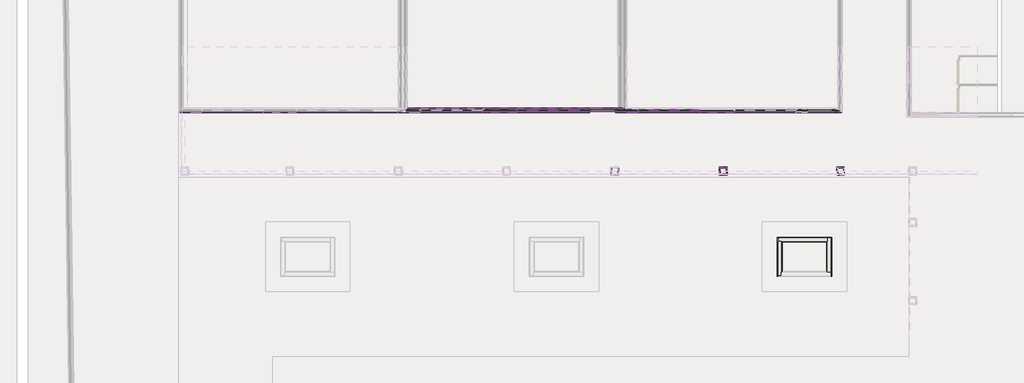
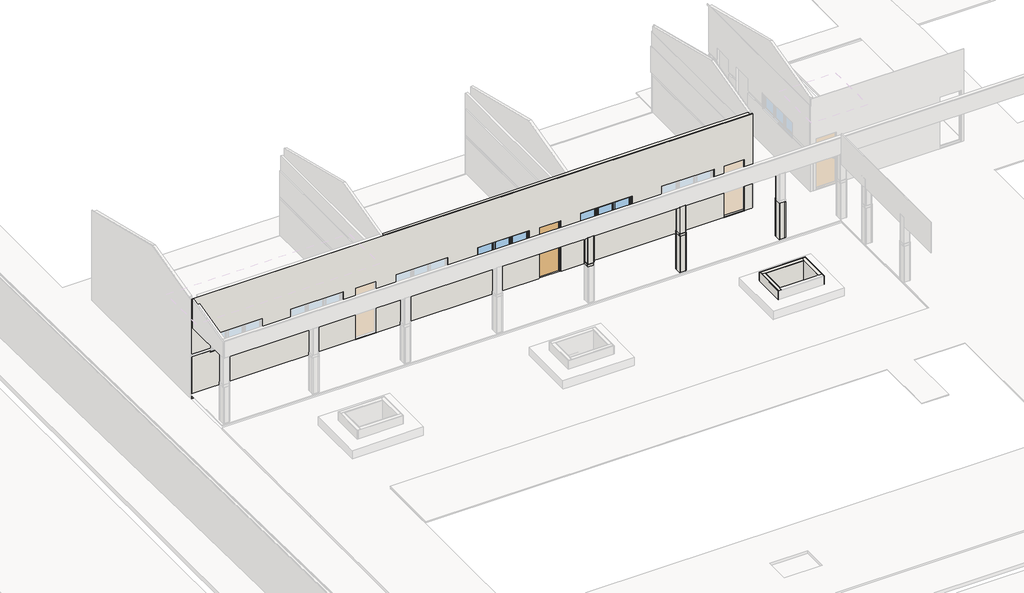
# One storey, part 8 of 28: 42 walls, 2 doors, 2 windows.
"""IFC4 building model written with IfcOpenShell, lengths in millimetres."""

from ifc_helpers import new_model, si_unit, frame, origin, place, context, project, spatial, polyline, outline, extrude, faceted_brep, transform, mapped, element, save
from components import door_29174598, pf15_l82cm_5bfc7586, window_2x60x220_bcaba8dd

model = new_model("IFC4")

# Units and contexts
model_context = context("Model", 3, world=origin())
ifc_project = project(units=[si_unit("LENGTHUNIT", "METRE", prefix="MILLI")], contexts=[model_context])

# Site, building, storey
site = spatial("IfcSite", under=ifc_project)
building = spatial("IfcBuilding", under=site)
storey = spatial("IfcBuildingStorey", under=building, Name="Térreo", Elevation=0.0)

# Doors
placement = place(None, origin())
door_shape = door_29174598(model_context)
element("IfcDoor", 1, ObjectType="FDE_SO_Soleiras1 : SO14_SoleiraRampadaDesnívelAté2cm_L=14cm_Cimentado 2", at=placement, inside=storey, context=model_context, shape_type="MappedRepresentation", body=[
    mapped(door_shape, transform((-44163.0, 21250.0, 190.0), x_axis=(1.0, 0.0, 0.0), y_axis=(0.0, 1.0, 0.0), z_axis=(0.0, 0.0, 1.0))),
])
pf15_l82cm_shape = pf15_l82cm_5bfc7586(model_context)
element("IfcDoor", 2, ObjectType="FDE_PF15_PF16_PF17_PortaemChapadeFerro : PF15_L82cm", at=placement, inside=storey, context=model_context, shape_type="MappedRepresentation", body=[
    mapped(pf15_l82cm_shape, transform((-44163.0, 21255.0, 190.0), x_axis=(1.0, 0.0, 0.0), y_axis=(0.0, 1.0, 0.0), z_axis=(0.0, 0.0, 1.0))),
])

# Walls
element("IfcWall", 3, ObjectType="FDE_S712_AlvenariadeTijoloCerâmico/Baiano_Alvenaria_9cm - Existente", at=placement, inside=storey, context=model_context, shape_type="Brep", body=[
    faceted_brep([(-43620.0, 21300.0, 0.0), (-50830.0, 21300.0, 0.0), (-50830.0, 21300.0, 3500.0), (-43620.0, 21300.0, 3500.0), (-43746.0, 21300.0, 190.0), (-43746.0, 21300.0, 2302.0), (-44580.0, 21300.0, 2302.0), (-44580.0, 21300.0, 190.0), (-44945.0, 21300.0, 1665.0), (-44945.0, 21300.0, 2335.0), (-47015.0, 21300.0, 2335.0), (-47015.0, 21300.0, 1665.0), (-48145.0, 21300.0, 1665.0), (-48145.0, 21300.0, 2335.0), (-50215.0, 21300.0, 2335.0), (-50215.0, 21300.0, 1665.0), (-50830.0, 21210.0, 0.0), (-43620.0, 21210.0, 0.0), (-43620.0, 21210.0, 3500.0), (-50830.0, 21210.0, 3500.0), (-43746.0, 21210.0, 2302.0), (-43746.0, 21210.0, 1824.9435125), (-43746.0, 21210.0, 190.0), (-44580.0, 21210.0, 190.0), (-44580.0, 21210.0, 1824.9435125), (-44580.0, 21210.0, 2302.0), (-44945.0, 21210.0, 2335.0), (-44945.0, 21210.0, 1824.9435125), (-44945.0, 21210.0, 1665.0), (-47015.0, 21210.0, 1665.0), (-47015.0, 21210.0, 1824.9435125), (-47015.0, 21210.0, 2335.0), (-48145.0, 21210.0, 2335.0), (-48145.0, 21210.0, 1824.9435125), (-48145.0, 21210.0, 1665.0), (-50215.0, 21210.0, 1665.0), (-50215.0, 21210.0, 1731.0528047), (-50215.0, 21210.0, 1824.9435125), (-50215.0, 21210.0, 2335.0)], [[[0, 1, 2, 3], [4, 5, 6, 7], [8, 9, 10, 11], [12, 13, 14, 15]], [[16, 17, 18, 19], [20, 21, 22, 23, 24, 25], [26, 27, 28, 29, 30, 31], [32, 33, 34, 35, 36, 37, 38]], [[1, 0, 17, 16]], [[3, 2, 19, 18]], [[2, 1, 16, 19]], [[0, 3, 18, 17]], [[4, 22, 21, 20, 5]], [[5, 20, 25, 6]], [[6, 25, 24, 23, 7]], [[22, 4, 7, 23]], [[8, 28, 27, 26, 9]], [[9, 26, 31, 10]], [[10, 31, 30, 29, 11]], [[28, 8, 11, 29]], [[12, 34, 33, 32, 13]], [[13, 32, 38, 14]], [[14, 38, 37, 36, 35, 15]], [[34, 12, 15, 35]]]),
])
element("IfcWall", 4, ObjectType="FDE_S712_AlvenariadeTijoloCerâmico/Baiano_Alvenaria_9cm - Existente", at=placement, inside=storey, context=model_context, shape_type="Brep", body=[
    faceted_brep([(-36320.0, 21300.0, 0.0), (-36350.0, 21300.0, 0.0), (-43380.0, 21300.0, 0.0), (-43470.0, 21300.0, 0.0), (-43485.0, 21300.0, 0.0), (-50680.0, 21300.0, 0.0), (-50680.0, 21300.0, 1731.0528047), (-50680.0, 21300.0, 4131.192274), (-43470.0, 21300.0, 4131.192274), (-43380.0, 21300.0, 4131.192274), (-36320.0, 21300.0, 4131.192274), (-36520.0, 21300.0, 200.0), (-36520.0, 21300.0, 1731.0528047), (-36520.0, 21300.0, 1824.9435125), (-36520.0, 21300.0, 2312.0), (-37354.0, 21300.0, 2312.0), (-37354.0, 21300.0, 1824.9435125), (-37354.0, 21300.0, 1731.0528047), (-37354.0, 21300.0, 200.0), (-43746.0, 21300.0, 190.0), (-43746.0, 21300.0, 1731.0528047), (-43746.0, 21300.0, 1824.9435125), (-43746.0, 21300.0, 2302.0), (-44580.0, 21300.0, 2302.0), (-44580.0, 21300.0, 1824.9435125), (-44580.0, 21300.0, 1731.0528047), (-44580.0, 21300.0, 190.0), (-44945.0, 21300.0, 1665.0), (-44945.0, 21300.0, 1731.0528047), (-44945.0, 21300.0, 1824.9435125), (-44945.0, 21300.0, 2335.0), (-47015.0, 21300.0, 2335.0), (-47015.0, 21300.0, 1824.9435125), (-47015.0, 21300.0, 1731.0528047), (-47015.0, 21300.0, 1665.0), (-37719.0, 21300.0, 1665.0), (-37719.0, 21300.0, 1731.0528047), (-37719.0, 21300.0, 1824.9435125), (-37719.0, 21300.0, 2335.0), (-39789.0, 21300.0, 2335.0), (-39789.0, 21300.0, 1824.9435125), (-39789.0, 21300.0, 1731.0528047), (-39789.0, 21300.0, 1665.0), (-40911.0, 21300.0, 1665.0), (-40911.0, 21300.0, 1731.0528047), (-40911.0, 21300.0, 1824.9435125), (-40911.0, 21300.0, 2335.0), (-42981.0, 21300.0, 2335.0), (-42981.0, 21300.0, 1824.9435125), (-42981.0, 21300.0, 1731.0528047), (-42981.0, 21300.0, 1665.0), (-48145.0, 21300.0, 1665.0), (-48145.0, 21300.0, 1731.0528047), (-48145.0, 21300.0, 1824.9435125), (-48145.0, 21300.0, 2335.0), (-50215.0, 21300.0, 2335.0), (-50215.0, 21300.0, 1824.9435125), (-50215.0, 21300.0, 1731.0528047), (-50215.0, 21300.0, 1665.0), (-50680.0, 21210.0, 0.0), (-36320.0, 21210.0, 0.0), (-36320.0, 21210.0, 4108.692274), (-50680.0, 21210.0, 4108.692274), (-43746.0, 21210.0, 2302.0), (-43746.0, 21210.0, 1824.9435125), (-43746.0, 21210.0, 1731.0528047), (-43746.0, 21210.0, 190.0), (-44580.0, 21210.0, 190.0), (-44580.0, 21210.0, 1731.0528047), (-44580.0, 21210.0, 1824.9435125), (-44580.0, 21210.0, 2302.0), (-36520.0, 21210.0, 2312.0), (-36520.0, 21210.0, 1824.9435125), (-36520.0, 21210.0, 1731.0528047), (-36520.0, 21210.0, 200.0), (-37354.0, 21210.0, 200.0), (-37354.0, 21210.0, 1731.0528047), (-37354.0, 21210.0, 1824.9435125), (-37354.0, 21210.0, 2312.0), (-37719.0, 21210.0, 2335.0), (-37719.0, 21210.0, 1824.9435125), (-37719.0, 21210.0, 1731.0528047), (-37719.0, 21210.0, 1665.0), (-39789.0, 21210.0, 1665.0), (-39789.0, 21210.0, 1731.0528047), (-39789.0, 21210.0, 1824.9435125), (-39789.0, 21210.0, 2335.0), (-40911.0, 21210.0, 2335.0), (-40911.0, 21210.0, 1824.9435125), (-40911.0, 21210.0, 1731.0528047), (-40911.0, 21210.0, 1665.0), (-42981.0, 21210.0, 1665.0), (-42981.0, 21210.0, 1731.0528047), (-42981.0, 21210.0, 1824.9435125), (-42981.0, 21210.0, 2335.0), (-44945.0, 21210.0, 2335.0), (-44945.0, 21210.0, 1824.9435125), (-44945.0, 21210.0, 1731.0528047), (-44945.0, 21210.0, 1665.0), (-47015.0, 21210.0, 1665.0), (-47015.0, 21210.0, 1731.0528047), (-47015.0, 21210.0, 1824.9435125), (-47015.0, 21210.0, 2335.0), (-48145.0, 21210.0, 2335.0), (-48145.0, 21210.0, 1824.9435125), (-48145.0, 21210.0, 1731.0528047), (-48145.0, 21210.0, 1665.0), (-50215.0, 21210.0, 1665.0), (-50215.0, 21210.0, 1731.0528047), (-50215.0, 21210.0, 1824.9435125), (-50215.0, 21210.0, 2335.0)], [[[0, 1, 2, 3, 4, 5, 6, 7, 8, 9, 10], [11, 12, 13, 14, 15, 16, 17, 18], [19, 20, 21, 22, 23, 24, 25, 26], [27, 28, 29, 30, 31, 32, 33, 34], [35, 36, 37, 38, 39, 40, 41, 42], [43, 44, 45, 46, 47, 48, 49, 50], [51, 52, 53, 54, 55, 56, 57, 58]], [[59, 60, 61, 62], [63, 64, 65, 66, 67, 68, 69, 70], [71, 72, 73, 74, 75, 76, 77, 78], [79, 80, 81, 82, 83, 84, 85, 86], [87, 88, 89, 90, 91, 92, 93, 94], [95, 96, 97, 98, 99, 100, 101, 102], [103, 104, 105, 106, 107, 108, 109, 110]], [[5, 4, 3, 2, 1, 0, 60, 59]], [[7, 6, 5, 59, 62]], [[19, 66, 65, 64, 63, 22, 21, 20]], [[22, 63, 70, 23]], [[67, 26, 25, 24, 23, 70, 69, 68]], [[66, 19, 26, 67]], [[11, 74, 73, 72, 71, 14, 13, 12]], [[14, 71, 78, 15]], [[75, 18, 17, 16, 15, 78, 77, 76]], [[74, 11, 18, 75]], [[10, 9, 8, 7, 62, 61]], [[35, 82, 81, 80, 79, 38, 37, 36]], [[38, 79, 86, 39]], [[39, 86, 85, 84, 83, 42, 41, 40]], [[82, 35, 42, 83]], [[43, 90, 89, 88, 87, 46, 45, 44]], [[46, 87, 94, 47]], [[47, 94, 93, 92, 91, 50, 49, 48]], [[90, 43, 50, 91]], [[27, 98, 97, 96, 95, 30, 29, 28]], [[30, 95, 102, 31]], [[31, 102, 101, 100, 99, 34, 33, 32]], [[98, 27, 34, 99]], [[51, 106, 105, 104, 103, 54, 53, 52]], [[54, 103, 110, 55]], [[55, 110, 109, 108, 107, 58, 57, 56]], [[106, 51, 58, 107]], [[60, 0, 10, 61]]]),
])
element("IfcWall", 5, ObjectType="Revestimento Cerâmico 10x10cm", at=placement, inside=storey, context=model_context, shape_type="Brep", body=[
    faceted_brep([(-58220.0, 21180.0, 0.0), (-36230.0, 21180.0, 0.0), (-36230.0, 21180.0, 220.0), (-36230.0, 21180.0, 1731.0528047), (-36520.0, 21180.0, 1731.0528047), (-36520.0, 21180.0, 200.0), (-37354.0, 21180.0, 200.0), (-37354.0, 21180.0, 1731.0528047), (-37719.0, 21180.0, 1731.0528047), (-37719.0, 21180.0, 1665.0), (-39789.0, 21180.0, 1665.0), (-39789.0, 21180.0, 1731.0528047), (-40911.0, 21180.0, 1731.0528047), (-40911.0, 21180.0, 1665.0), (-42981.0, 21180.0, 1665.0), (-42981.0, 21180.0, 1731.0528047), (-43746.0, 21180.0, 1731.0528047), (-43746.0, 21180.0, 190.0), (-44580.0, 21180.0, 190.0), (-44580.0, 21180.0, 1731.0528047), (-44945.0, 21180.0, 1731.0528047), (-44945.0, 21180.0, 1665.0), (-47015.0, 21180.0, 1665.0), (-47015.0, 21180.0, 1731.0528047), (-48145.0, 21180.0, 1731.0528047), (-48145.0, 21180.0, 1665.0), (-50215.0, 21180.0, 1665.0), (-50215.0, 21180.0, 1731.0528047), (-50970.0, 21180.0, 1731.0528047), (-50970.0, 21180.0, 200.0), (-51804.0, 21180.0, 200.0), (-51804.0, 21180.0, 1731.0528047), (-52269.0, 21180.0, 1731.0528047), (-52269.0, 21180.0, 1665.0), (-54339.0, 21180.0, 1665.0), (-54339.0, 21180.0, 1731.0528047), (-55415.0, 21180.0, 1731.0528047), (-55415.0, 21180.0, 1665.0), (-57485.0, 21180.0, 1665.0), (-57485.0, 21180.0, 1731.0528047), (-58220.0, 21180.0, 1731.0528047), (-36230.0, 21210.0, 0.0), (-36320.0, 21210.0, 0.0), (-50680.0, 21210.0, 0.0), (-50770.0, 21210.0, 0.0), (-57950.0, 21210.0, 0.0), (-58220.0, 21210.0, 0.0), (-58220.0, 21210.0, 1731.0528047), (-57485.0, 21210.0, 1731.0528047), (-57485.0, 21210.0, 1665.0), (-55415.0, 21210.0, 1665.0), (-55415.0, 21210.0, 1731.0528047), (-54339.0, 21210.0, 1731.0528047), (-54339.0, 21210.0, 1665.0), (-52269.0, 21210.0, 1665.0), (-52269.0, 21210.0, 1731.0528047), (-51804.0, 21210.0, 1731.0528047), (-51804.0, 21210.0, 200.0), (-50970.0, 21210.0, 200.0), (-50970.0, 21210.0, 1731.0528047), (-50215.0, 21210.0, 1731.0528047), (-50215.0, 21210.0, 1665.0), (-48145.0, 21210.0, 1665.0), (-48145.0, 21210.0, 1731.0528047), (-47015.0, 21210.0, 1731.0528047), (-47015.0, 21210.0, 1665.0), (-44945.0, 21210.0, 1665.0), (-44945.0, 21210.0, 1731.0528047), (-44580.0, 21210.0, 1731.0528047), (-44580.0, 21210.0, 190.0), (-43746.0, 21210.0, 190.0), (-43746.0, 21210.0, 1731.0528047), (-42981.0, 21210.0, 1731.0528047), (-42981.0, 21210.0, 1665.0), (-40911.0, 21210.0, 1665.0), (-40911.0, 21210.0, 1731.0528047), (-39789.0, 21210.0, 1731.0528047), (-39789.0, 21210.0, 1665.0), (-37719.0, 21210.0, 1665.0), (-37719.0, 21210.0, 1731.0528047), (-37354.0, 21210.0, 1731.0528047), (-37354.0, 21210.0, 200.0), (-36520.0, 21210.0, 200.0), (-36520.0, 21210.0, 1731.0528047), (-36230.0, 21210.0, 1731.0528047)], [[[0, 1, 2, 3, 4, 5, 6, 7, 8, 9, 10, 11, 12, 13, 14, 15, 16, 17, 18, 19, 20, 21, 22, 23, 24, 25, 26, 27, 28, 29, 30, 31, 32, 33, 34, 35, 36, 37, 38, 39, 40]], [[41, 42, 43, 44, 45, 46, 47, 48, 49, 50, 51, 52, 53, 54, 55, 56, 57, 58, 59, 60, 61, 62, 63, 64, 65, 66, 67, 68, 69, 70, 71, 72, 73, 74, 75, 76, 77, 78, 79, 80, 81, 82, 83, 84]], [[1, 0, 46, 45, 44, 43, 42, 41]], [[4, 3, 84, 83]], [[7, 80, 79, 8]], [[71, 16, 15, 72]], [[19, 68, 67, 20]], [[63, 24, 23, 64]], [[27, 60, 59, 28]], [[75, 12, 11, 76]], [[31, 56, 55, 32]], [[35, 52, 51, 36]], [[47, 40, 39, 48]], [[82, 5, 4, 83]], [[6, 81, 80, 7]], [[5, 82, 81, 6]], [[70, 17, 16, 71]], [[18, 69, 68, 19]], [[17, 70, 69, 18]], [[62, 25, 24, 63]], [[26, 61, 60, 27]], [[25, 62, 61, 26]], [[66, 21, 20, 67]], [[22, 65, 64, 23]], [[21, 66, 65, 22]], [[74, 13, 12, 75]], [[14, 73, 72, 15]], [[13, 74, 73, 14]], [[78, 9, 8, 79]], [[10, 77, 76, 11]], [[9, 78, 77, 10]], [[58, 29, 28, 59]], [[30, 57, 56, 31]], [[29, 58, 57, 30]], [[54, 33, 32, 55]], [[34, 53, 52, 35]], [[33, 54, 53, 34]], [[50, 37, 36, 51]], [[38, 49, 48, 39]], [[37, 50, 49, 38]], [[0, 40, 47, 46]], [[1, 41, 84, 3, 2]]]),
])
element("IfcWall", 6, ObjectType="Pardes Externas_Pintura Acrílica Branco Neve", at=placement, inside=storey, context=model_context, shape_type="Brep", body=[
    faceted_brep([(-36209.0, 21189.0, 4103.442274), (-58220.0, 21189.0, 4103.442274), (-58220.0, 21189.0, 1824.9435125), (-57485.0, 21189.0, 1824.9435125), (-57485.0, 21189.0, 2335.0), (-55415.0, 21189.0, 2335.0), (-55415.0, 21189.0, 1824.9435125), (-54339.0, 21189.0, 1824.9435125), (-54339.0, 21189.0, 2335.0), (-52269.0, 21189.0, 2335.0), (-52269.0, 21189.0, 1824.9435125), (-51804.0, 21189.0, 1824.9435125), (-51804.0, 21189.0, 2312.0), (-50970.0, 21189.0, 2312.0), (-50970.0, 21189.0, 1824.9435125), (-50215.0, 21189.0, 1824.9435125), (-50215.0, 21189.0, 2335.0), (-48145.0, 21189.0, 2335.0), (-48145.0, 21189.0, 1824.9435125), (-47015.0, 21189.0, 1824.9435125), (-47015.0, 21189.0, 2335.0), (-44945.0, 21189.0, 2335.0), (-44945.0, 21189.0, 1824.9435125), (-44580.0, 21189.0, 1824.9435125), (-44580.0, 21189.0, 2302.0), (-43746.0, 21189.0, 2302.0), (-43746.0, 21189.0, 1824.9435125), (-42981.0, 21189.0, 1824.9435125), (-42981.0, 21189.0, 2335.0), (-40911.0, 21189.0, 2335.0), (-40911.0, 21189.0, 1824.9435125), (-39789.0, 21189.0, 1824.9435125), (-39789.0, 21189.0, 2335.0), (-37719.0, 21189.0, 2335.0), (-37719.0, 21189.0, 1824.9435125), (-37354.0, 21189.0, 1824.9435125), (-37354.0, 21189.0, 2312.0), (-36520.0, 21189.0, 2312.0), (-36520.0, 21189.0, 1824.9435125), (-36209.0, 21189.0, 1824.9435125), (-58220.0, 21210.0, 4108.692274), (-50680.0, 21210.0, 4108.692274), (-36320.0, 21210.0, 4108.692274), (-36230.0, 21210.0, 4108.692274), (-36209.0, 21210.0, 4108.692274), (-36209.0, 21210.0, 1824.9435125), (-36230.0, 21210.0, 1824.9435125), (-36520.0, 21210.0, 1824.9435125), (-36520.0, 21210.0, 2312.0), (-37354.0, 21210.0, 2312.0), (-37354.0, 21210.0, 1824.9435125), (-37719.0, 21210.0, 1824.9435125), (-37719.0, 21210.0, 2335.0), (-39789.0, 21210.0, 2335.0), (-39789.0, 21210.0, 1824.9435125), (-40911.0, 21210.0, 1824.9435125), (-40911.0, 21210.0, 2335.0), (-42981.0, 21210.0, 2335.0), (-42981.0, 21210.0, 1824.9435125), (-43746.0, 21210.0, 1824.9435125), (-43746.0, 21210.0, 2302.0), (-44580.0, 21210.0, 2302.0), (-44580.0, 21210.0, 1824.9435125), (-44945.0, 21210.0, 1824.9435125), (-44945.0, 21210.0, 2335.0), (-47015.0, 21210.0, 2335.0), (-47015.0, 21210.0, 1824.9435125), (-48145.0, 21210.0, 1824.9435125), (-48145.0, 21210.0, 2335.0), (-50215.0, 21210.0, 2335.0), (-50215.0, 21210.0, 1824.9435125), (-50970.0, 21210.0, 1824.9435125), (-50970.0, 21210.0, 2312.0), (-51804.0, 21210.0, 2312.0), (-51804.0, 21210.0, 1824.9435125), (-52269.0, 21210.0, 1824.9435125), (-52269.0, 21210.0, 2335.0), (-54339.0, 21210.0, 2335.0), (-54339.0, 21210.0, 1824.9435125), (-55415.0, 21210.0, 1824.9435125), (-55415.0, 21210.0, 2335.0), (-57485.0, 21210.0, 2335.0), (-57485.0, 21210.0, 1824.9435125), (-58220.0, 21210.0, 1824.9435125)], [[[0, 1, 2, 3, 4, 5, 6, 7, 8, 9, 10, 11, 12, 13, 14, 15, 16, 17, 18, 19, 20, 21, 22, 23, 24, 25, 26, 27, 28, 29, 30, 31, 32, 33, 34, 35, 36, 37, 38, 39]], [[40, 41, 42, 43, 44, 45, 46, 47, 48, 49, 50, 51, 52, 53, 54, 55, 56, 57, 58, 59, 60, 61, 62, 63, 64, 65, 66, 67, 68, 69, 70, 71, 72, 73, 74, 75, 76, 77, 78, 79, 80, 81, 82, 83]], [[14, 71, 70, 15]], [[74, 11, 10, 75]], [[26, 59, 58, 27]], [[62, 23, 22, 63]], [[39, 38, 47, 46, 45]], [[50, 35, 34, 51]], [[54, 31, 30, 55]], [[66, 19, 18, 67]], [[78, 7, 6, 79]], [[2, 83, 82, 3]], [[1, 0, 44, 43, 42, 41, 40]], [[13, 72, 71, 14]], [[72, 13, 12, 73]], [[73, 12, 11, 74]], [[25, 60, 59, 26]], [[60, 25, 24, 61]], [[61, 24, 23, 62]], [[37, 48, 47, 38]], [[48, 37, 36, 49]], [[49, 36, 35, 50]], [[33, 52, 51, 34]], [[52, 33, 32, 53]], [[53, 32, 31, 54]], [[29, 56, 55, 30]], [[56, 29, 28, 57]], [[57, 28, 27, 58]], [[21, 64, 63, 22]], [[64, 21, 20, 65]], [[65, 20, 19, 66]], [[17, 68, 67, 18]], [[68, 17, 16, 69]], [[69, 16, 15, 70]], [[9, 76, 75, 10]], [[76, 9, 8, 77]], [[77, 8, 7, 78]], [[5, 80, 79, 6]], [[80, 5, 4, 81]], [[81, 4, 3, 82]], [[83, 2, 1, 40]], [[0, 39, 45, 44]]]),
])
element("IfcWall", 7, ObjectType="Revestimento Cerâmico 10x10cm", at=placement, inside=storey, context=model_context, shape_type="Brep", body=[
    faceted_brep([(-43485.0, 21330.0, 0.0), (-50680.0, 21330.0, 0.0), (-50680.0, 21330.0, 220.0), (-50680.0, 21330.0, 1731.0528047), (-50650.0, 21330.0, 1731.0528047), (-50215.0, 21330.0, 1731.0528047), (-50215.0, 21330.0, 1665.0), (-48145.0, 21330.0, 1665.0), (-48145.0, 21330.0, 1731.0528047), (-47015.0, 21330.0, 1731.0528047), (-47015.0, 21330.0, 1665.0), (-44945.0, 21330.0, 1665.0), (-44945.0, 21330.0, 1731.0528047), (-44580.0, 21330.0, 1731.0528047), (-44580.0, 21330.0, 190.0), (-43746.0, 21330.0, 190.0), (-43746.0, 21330.0, 1731.0528047), (-43485.0, 21330.0, 1731.0528047), (-50680.0, 21300.0, 0.0), (-43485.0, 21300.0, 0.0), (-43485.0, 21300.0, 1731.0528047), (-43746.0, 21300.0, 1731.0528047), (-43746.0, 21300.0, 190.0), (-44580.0, 21300.0, 190.0), (-44580.0, 21300.0, 1731.0528047), (-44945.0, 21300.0, 1731.0528047), (-44945.0, 21300.0, 1665.0), (-47015.0, 21300.0, 1665.0), (-47015.0, 21300.0, 1731.0528047), (-48145.0, 21300.0, 1731.0528047), (-48145.0, 21300.0, 1665.0), (-50215.0, 21300.0, 1665.0), (-50215.0, 21300.0, 1731.0528047), (-50680.0, 21300.0, 1731.0528047)], [[[0, 1, 2, 3, 4, 5, 6, 7, 8, 9, 10, 11, 12, 13, 14, 15, 16, 17]], [[18, 19, 20, 21, 22, 23, 24, 25, 26, 27, 28, 29, 30, 31, 32, 33]], [[1, 0, 19, 18]], [[20, 17, 16, 21]], [[3, 33, 32, 5, 4]], [[8, 29, 28, 9]], [[12, 25, 24, 13]], [[0, 17, 20, 19]], [[7, 30, 29, 8]], [[31, 6, 5, 32]], [[30, 7, 6, 31]], [[11, 26, 25, 12]], [[27, 10, 9, 28]], [[26, 11, 10, 27]], [[15, 22, 21, 16]], [[23, 14, 13, 24]], [[22, 15, 14, 23]], [[1, 18, 33, 3, 2]]]),
])
element("IfcWall", 8, ObjectType="Faixa - Revestimento Cerâmico Verde Folha 10x10cm", at=placement, inside=storey, context=model_context, shape_type="Brep", body=[
    faceted_brep([(-43485.0, 21330.0, 1824.9435125), (-43485.0, 21330.0, 1731.0528047), (-43746.0, 21330.0, 1731.0528047), (-43746.0, 21330.0, 1824.9435125), (-43485.0, 21300.0, 1731.0528047), (-43485.0, 21300.0, 1824.9435125), (-43746.0, 21300.0, 1824.9435125), (-43746.0, 21300.0, 1731.0528047)], [[[0, 1, 2, 3]], [[4, 5, 6, 7]], [[1, 4, 7, 2]], [[5, 0, 3, 6]], [[1, 0, 5, 4]], [[3, 2, 7, 6]]]),
    faceted_brep([(-50680.0, 21330.0, 1731.0528047), (-50680.0, 21330.0, 1824.9435125), (-50650.0, 21330.0, 1824.9435125), (-50215.0, 21330.0, 1824.9435125), (-50215.0, 21330.0, 1731.0528047), (-50650.0, 21330.0, 1731.0528047), (-50680.0, 21300.0, 1824.9435125), (-50680.0, 21300.0, 1731.0528047), (-50215.0, 21300.0, 1731.0528047), (-50215.0, 21300.0, 1824.9435125)], [[[0, 1, 2, 3, 4, 5]], [[6, 7, 8, 9]], [[7, 0, 5, 4, 8]], [[1, 6, 9, 3, 2]], [[1, 0, 7, 6]], [[4, 3, 9, 8]]]),
    faceted_brep([(-44580.0, 21330.0, 1824.9435125), (-44580.0, 21330.0, 1731.0528047), (-44980.0, 21330.0, 1731.0528047), (-44980.0, 21330.0, 1824.9435125), (-44580.0, 21300.0, 1731.0528047), (-44580.0, 21300.0, 1824.9435125), (-44980.0, 21300.0, 1824.9435125), (-44980.0, 21300.0, 1731.0528047)], [[[0, 1, 2, 3]], [[4, 5, 6, 7]], [[1, 4, 7, 2]], [[5, 0, 3, 6]], [[1, 0, 5, 4]], [[3, 2, 7, 6]]]),
    faceted_brep([(-47015.0, 21330.0, 1824.9435125), (-47015.0, 21330.0, 1731.0528047), (-48145.0, 21330.0, 1731.0528047), (-48145.0, 21330.0, 1824.9435125), (-47015.0, 21300.0, 1731.0528047), (-47015.0, 21300.0, 1824.9435125), (-48145.0, 21300.0, 1824.9435125), (-48145.0, 21300.0, 1731.0528047)], [[[0, 1, 2, 3]], [[4, 5, 6, 7]], [[1, 4, 7, 2]], [[5, 0, 3, 6]], [[1, 0, 5, 4]], [[3, 2, 7, 6]]]),
])
element("IfcWall", 9, ObjectType="Pardes Internas_Pintura Acrílica Branco Neve 2", at=placement, inside=storey, context=model_context, shape_type="Brep", body=[
    faceted_brep([(-50649.0, 21331.0, 2900.8), (-43484.5, 21331.0, 2900.8), (-43484.5, 21331.0, 1824.9435125), (-43746.0, 21331.0, 1824.9435125), (-43746.0, 21331.0, 2302.0), (-44580.0, 21331.0, 2302.0), (-44580.0, 21331.0, 1824.9435125), (-44945.0, 21331.0, 1824.9435125), (-44945.0, 21331.0, 2335.0), (-47015.0, 21331.0, 2335.0), (-47015.0, 21331.0, 1824.9435125), (-48145.0, 21331.0, 1824.9435125), (-48145.0, 21331.0, 2335.0), (-50215.0, 21331.0, 2335.0), (-50215.0, 21331.0, 1824.9435125), (-50649.0, 21331.0, 1824.9435125), (-43484.5, 21300.0, 2900.8), (-50649.0, 21300.0, 2900.8), (-50649.0, 21300.0, 2900.0), (-50649.0, 21300.0, 1824.9435125), (-50215.0, 21300.0, 1824.9435125), (-50215.0, 21300.0, 2335.0), (-48145.0, 21300.0, 2335.0), (-48145.0, 21300.0, 1824.9435125), (-47015.0, 21300.0, 1824.9435125), (-47015.0, 21300.0, 2335.0), (-44945.0, 21300.0, 2335.0), (-44945.0, 21300.0, 1824.9435125), (-44580.0, 21300.0, 1824.9435125), (-44580.0, 21300.0, 2302.0), (-43746.0, 21300.0, 2302.0), (-43746.0, 21300.0, 1824.9435125), (-43484.5, 21300.0, 1824.9435125)], [[[0, 1, 2, 3, 4, 5, 6, 7, 8, 9, 10, 11, 12, 13, 14, 15]], [[16, 17, 18, 19, 20, 21, 22, 23, 24, 25, 26, 27, 28, 29, 30, 31, 32]], [[2, 32, 31, 3]], [[6, 28, 27, 7]], [[10, 24, 23, 11]], [[19, 15, 14, 20]], [[1, 0, 17, 16]], [[2, 1, 16, 32]], [[30, 4, 3, 31]], [[4, 30, 29, 5]], [[5, 29, 28, 6]], [[26, 8, 7, 27]], [[8, 26, 25, 9]], [[9, 25, 24, 10]], [[22, 12, 11, 23]], [[12, 22, 21, 13]], [[13, 21, 20, 14]], [[0, 15, 19, 18, 17]]]),
])
element("IfcWall", 10, ObjectType="Faixa - Revestimento Cerâmico Verde Folha 10x10cm", at=placement, inside=storey, context=model_context, shape_type="SweptSolid", body=[
    extrude(outline(polyline([(-39789.0, 21210.0), (-39789.0, 21180.0), (-40911.0, 21180.0), (-40911.0, 21210.0), (-39789.0, 21210.0)])), frame((0.0, 0.0, 1731.0528047), z_axis=(0.0, 0.0, 1.0), x_axis=(1.0, 0.0, 0.0)), (0.0, 0.0, 1.0), 93.8907079),
])
element("IfcWall", 11, ObjectType="Faixa - Revestimento Cerâmico Verde Folha 10x10cm", at=placement, inside=storey, context=model_context, shape_type="SweptSolid", body=[
    extrude(outline(polyline([(-42981.0, 21210.0), (-42981.0, 21180.0), (-43746.0, 21180.0), (-43746.0, 21210.0), (-42981.0, 21210.0)])), frame((0.0, 0.0, 1731.0528047), z_axis=(0.0, 0.0, 1.0), x_axis=(1.0, 0.0, 0.0)), (0.0, 0.0, 1.0), 93.8907079),
    extrude(outline(polyline([(-44580.0, 21210.0), (-44580.0, 21180.0), (-44945.0, 21180.0), (-44945.0, 21210.0), (-44580.0, 21210.0)])), frame((0.0, 0.0, 1731.0528047), z_axis=(0.0, 0.0, 1.0), x_axis=(1.0, 0.0, 0.0)), (0.0, 0.0, 1.0), 93.8907079),
])
element("IfcWall", 12, ObjectType="Faixa - Revestimento Cerâmico Verde Folha 10x10cm", at=placement, inside=storey, context=model_context, shape_type="SweptSolid", body=[
    extrude(outline(polyline([(-47015.0, 21180.0), (-48145.0, 21180.0), (-48145.0, 21210.0), (-47015.0, 21210.0), (-47015.0, 21180.0)])), frame((0.0, 0.0, 1731.0528047), z_axis=(0.0, 0.0, 1.0), x_axis=(1.0, 0.0, 0.0)), (0.0, 0.0, 1.0), 93.8907079),
])
element("IfcWall", 13, ObjectType="Pardes Externas_Pintura Acrílica Branco Neve", at=placement, inside=storey, context=model_context, shape_type="Brep", body=[
    faceted_brep([(-36371.0, 19330.0, 1794.0), (-36350.0, 19330.0, 1794.0), (-36150.0, 19330.0, 1794.0), (-36129.0, 19330.0, 1794.0), (-36129.0, 19330.0, 2900.0), (-36150.0, 19330.0, 2900.0), (-36350.0, 19330.0, 2900.0), (-36371.0, 19330.0, 2900.0), (-36371.0, 19351.0, 1794.0), (-36371.0, 19351.0, 2900.0), (-36129.0, 19351.0, 2900.0), (-36129.0, 19351.0, 1794.0)], [[[0, 1, 2, 3, 4, 5, 6, 7]], [[8, 9, 10, 11]], [[3, 2, 1, 0, 8, 11]], [[7, 6, 5, 4, 10, 9]], [[0, 7, 9, 8]], [[4, 3, 11, 10]]]),
])
element("IfcWall", 14, ObjectType="Revestimento Cerâmico 10x10cm", at=placement, inside=storey, context=model_context, shape_type="Brep", body=[
    faceted_brep([(-36380.0, 19330.0, 194.0), (-36350.0, 19330.0, 194.0), (-36150.0, 19330.0, 194.0), (-36120.0, 19330.0, 194.0), (-36120.0, 19330.0, 1694.0), (-36150.0, 19330.0, 1694.0), (-36350.0, 19330.0, 1694.0), (-36380.0, 19330.0, 1694.0), (-36380.0, 19360.0, 194.0), (-36380.0, 19360.0, 1694.0), (-36120.0, 19360.0, 1694.0), (-36120.0, 19360.0, 194.0)], [[[0, 1, 2, 3, 4, 5, 6, 7]], [[8, 9, 10, 11]], [[3, 2, 1, 0, 8, 11]], [[7, 6, 5, 4, 10, 9]], [[0, 7, 9, 8]], [[4, 3, 11, 10]]]),
])
element("IfcWall", 15, ObjectType="Revestimento Cerâmico 10x10cm", at=placement, inside=storey, context=model_context, shape_type="Brep", body=[
    faceted_brep([(-36350.0, 19100.0, 194.0), (-36350.0, 19130.0, 194.0), (-36350.0, 19330.0, 194.0), (-36350.0, 19330.0, 1694.0), (-36350.0, 19130.0, 1694.0), (-36350.0, 19100.0, 1694.0), (-36380.0, 19100.0, 194.0), (-36380.0, 19100.0, 1694.0), (-36380.0, 19330.0, 1694.0), (-36380.0, 19330.0, 194.0)], [[[0, 1, 2, 3, 4, 5]], [[6, 7, 8, 9]], [[2, 1, 0, 6, 9]], [[5, 4, 3, 8, 7]], [[3, 2, 9, 8]], [[0, 5, 7, 6]]]),
])
element("IfcWall", 16, ObjectType="Revestimento Cerâmico 10x10cm", at=placement, inside=storey, context=model_context, shape_type="Brep", body=[
    faceted_brep([(-36150.0, 19330.0, 194.0), (-36150.0, 19130.0, 194.0), (-36150.0, 19100.0, 194.0), (-36150.0, 19100.0, 1694.0), (-36150.0, 19130.0, 1694.0), (-36150.0, 19330.0, 1694.0), (-36120.0, 19330.0, 194.0), (-36120.0, 19330.0, 1694.0), (-36120.0, 19100.0, 1694.0), (-36120.0, 19100.0, 194.0)], [[[0, 1, 2, 3, 4, 5]], [[6, 7, 8, 9]], [[2, 1, 0, 6, 9]], [[5, 4, 3, 8, 7]], [[0, 5, 7, 6]], [[3, 2, 9, 8]]]),
])
element("IfcWall", 17, ObjectType="Revestimento Cerâmico 10x10cm", at=placement, inside=storey, context=model_context, shape_type="SweptSolid", body=[
    extrude(outline(polyline([(-36150.0, 19100.0), (-36350.0, 19100.0), (-36350.0, 19130.0), (-36150.0, 19130.0), (-36150.0, 19100.0)])), frame((0.0, 0.0, 194.0), z_axis=(0.0, 0.0, 1.0), x_axis=(1.0, 0.0, 0.0)), (0.0, 0.0, 1.0), 1500.0),
])
element("IfcWall", 18, ObjectType="Faixa - Revestimento Cerâmico Verde Folha 10x10cm", at=placement, inside=storey, context=model_context, shape_type="Brep", body=[
    faceted_brep([(-36380.0, 19330.0, 1694.0), (-36350.0, 19330.0, 1694.0), (-36150.0, 19330.0, 1694.0), (-36120.0, 19330.0, 1694.0), (-36120.0, 19330.0, 1794.0), (-36150.0, 19330.0, 1794.0), (-36350.0, 19330.0, 1794.0), (-36380.0, 19330.0, 1794.0), (-36380.0, 19360.0, 1694.0), (-36380.0, 19360.0, 1794.0), (-36120.0, 19360.0, 1794.0), (-36120.0, 19360.0, 1694.0)], [[[0, 1, 2, 3, 4, 5, 6, 7]], [[8, 9, 10, 11]], [[3, 2, 1, 0, 8, 11]], [[7, 6, 5, 4, 10, 9]], [[4, 3, 11, 10]], [[0, 7, 9, 8]]]),
])
element("IfcWall", 19, ObjectType="Pardes Externas_Pintura Acrílica Branco Neve", at=placement, inside=storey, context=model_context, shape_type="Brep", body=[
    faceted_brep([(-40271.0, 19330.0, 1794.0), (-40250.0, 19330.0, 1794.0), (-40050.0, 19330.0, 1794.0), (-40029.0, 19330.0, 1794.0), (-40029.0, 19330.0, 2900.0), (-40050.0, 19330.0, 2900.0), (-40250.0, 19330.0, 2900.0), (-40271.0, 19330.0, 2900.0), (-40271.0, 19351.0, 1794.0), (-40271.0, 19351.0, 2900.0), (-40029.0, 19351.0, 2900.0), (-40029.0, 19351.0, 1794.0)], [[[0, 1, 2, 3, 4, 5, 6, 7]], [[8, 9, 10, 11]], [[3, 2, 1, 0, 8, 11]], [[7, 6, 5, 4, 10, 9]], [[0, 7, 9, 8]], [[4, 3, 11, 10]]]),
])
element("IfcWall", 20, ObjectType="Revestimento Cerâmico 10x10cm", at=placement, inside=storey, context=model_context, shape_type="Brep", body=[
    faceted_brep([(-40280.0, 19330.0, 194.0), (-40250.0, 19330.0, 194.0), (-40050.0, 19330.0, 194.0), (-40020.0, 19330.0, 194.0), (-40020.0, 19330.0, 1694.0), (-40050.0, 19330.0, 1694.0), (-40250.0, 19330.0, 1694.0), (-40280.0, 19330.0, 1694.0), (-40280.0, 19360.0, 194.0), (-40280.0, 19360.0, 1694.0), (-40020.0, 19360.0, 1694.0), (-40020.0, 19360.0, 194.0)], [[[0, 1, 2, 3, 4, 5, 6, 7]], [[8, 9, 10, 11]], [[3, 2, 1, 0, 8, 11]], [[7, 6, 5, 4, 10, 9]], [[0, 7, 9, 8]], [[4, 3, 11, 10]]]),
])
element("IfcWall", 21, ObjectType="Revestimento Cerâmico 10x10cm", at=placement, inside=storey, context=model_context, shape_type="Brep", body=[
    faceted_brep([(-40250.0, 19100.0, 194.0), (-40250.0, 19130.0, 194.0), (-40250.0, 19330.0, 194.0), (-40250.0, 19330.0, 1694.0), (-40250.0, 19130.0, 1694.0), (-40250.0, 19100.0, 1694.0), (-40280.0, 19100.0, 194.0), (-40280.0, 19100.0, 1694.0), (-40280.0, 19330.0, 1694.0), (-40280.0, 19330.0, 194.0)], [[[0, 1, 2, 3, 4, 5]], [[6, 7, 8, 9]], [[2, 1, 0, 6, 9]], [[5, 4, 3, 8, 7]], [[3, 2, 9, 8]], [[0, 5, 7, 6]]]),
])
element("IfcWall", 22, ObjectType="Revestimento Cerâmico 10x10cm", at=placement, inside=storey, context=model_context, shape_type="Brep", body=[
    faceted_brep([(-40050.0, 19330.0, 194.0), (-40050.0, 19130.0, 194.0), (-40050.0, 19100.0, 194.0), (-40050.0, 19100.0, 1694.0), (-40050.0, 19130.0, 1694.0), (-40050.0, 19330.0, 1694.0), (-40020.0, 19330.0, 194.0), (-40020.0, 19330.0, 1694.0), (-40020.0, 19100.0, 1694.0), (-40020.0, 19100.0, 194.0)], [[[0, 1, 2, 3, 4, 5]], [[6, 7, 8, 9]], [[2, 1, 0, 6, 9]], [[5, 4, 3, 8, 7]], [[0, 5, 7, 6]], [[3, 2, 9, 8]]]),
])
element("IfcWall", 23, ObjectType="Revestimento Cerâmico 10x10cm", at=placement, inside=storey, context=model_context, shape_type="SweptSolid", body=[
    extrude(outline(polyline([(-40050.0, 19100.0), (-40250.0, 19100.0), (-40250.0, 19130.0), (-40050.0, 19130.0), (-40050.0, 19100.0)])), frame((0.0, 0.0, 194.0), z_axis=(0.0, 0.0, 1.0), x_axis=(1.0, 0.0, 0.0)), (0.0, 0.0, 1.0), 1500.0),
])
element("IfcWall", 24, ObjectType="Faixa - Revestimento Cerâmico Verde Folha 10x10cm", at=placement, inside=storey, context=model_context, shape_type="Brep", body=[
    faceted_brep([(-40280.0, 19330.0, 1694.0), (-40250.0, 19330.0, 1694.0), (-40050.0, 19330.0, 1694.0), (-40020.0, 19330.0, 1694.0), (-40020.0, 19330.0, 1794.0), (-40050.0, 19330.0, 1794.0), (-40250.0, 19330.0, 1794.0), (-40280.0, 19330.0, 1794.0), (-40280.0, 19360.0, 1694.0), (-40280.0, 19360.0, 1794.0), (-40020.0, 19360.0, 1794.0), (-40020.0, 19360.0, 1694.0)], [[[0, 1, 2, 3, 4, 5, 6, 7]], [[8, 9, 10, 11]], [[3, 2, 1, 0, 8, 11]], [[7, 6, 5, 4, 10, 9]], [[4, 3, 11, 10]], [[0, 7, 9, 8]]]),
])
element("IfcWall", 25, ObjectType="Faixa - Revestimento Cerâmico Verde Folha 10x10cm", at=placement, inside=storey, context=model_context, shape_type="Brep", body=[
    faceted_brep([(-40050.0, 19330.0, 1694.0), (-40050.0, 19130.0, 1694.0), (-40050.0, 19100.0, 1694.0), (-40050.0, 19100.0, 1794.0), (-40050.0, 19130.0, 1794.0), (-40050.0, 19330.0, 1794.0), (-40020.0, 19330.0, 1694.0), (-40020.0, 19330.0, 1794.0), (-40020.0, 19100.0, 1794.0), (-40020.0, 19100.0, 1694.0)], [[[0, 1, 2, 3, 4, 5]], [[6, 7, 8, 9]], [[2, 1, 0, 6, 9]], [[5, 4, 3, 8, 7]], [[0, 5, 7, 6]], [[3, 2, 9, 8]]]),
])
element("IfcWall", 26, ObjectType="Faixa - Revestimento Cerâmico Verde Folha 10x10cm", at=placement, inside=storey, context=model_context, shape_type="Brep", body=[
    faceted_brep([(-40280.0, 19100.0, 1694.0), (-40050.0, 19100.0, 1694.0), (-40050.0, 19100.0, 1794.0), (-40280.0, 19100.0, 1794.0), (-40280.0, 19130.0, 1694.0), (-40280.0, 19130.0, 1794.0), (-40250.0, 19130.0, 1794.0), (-40050.0, 19130.0, 1794.0), (-40050.0, 19130.0, 1694.0), (-40250.0, 19130.0, 1694.0), (-40050.0, 19109.0, 1794.0)], [[[0, 1, 2, 3]], [[4, 5, 6, 7, 8, 9]], [[1, 0, 4, 9, 8]], [[3, 2, 10, 7, 6, 5]], [[2, 1, 8, 7, 10]], [[0, 3, 5, 4]]]),
])
element("IfcWall", 27, ObjectType="Faixa - Revestimento Cerâmico Verde Folha 10x10cm", at=placement, inside=storey, context=model_context, shape_type="SweptSolid", body=[
    extrude(outline(polyline([(-40280.0, 19130.0), (-40280.0, 19330.0), (-40250.0, 19330.0), (-40250.0, 19130.0), (-40280.0, 19130.0)])), frame((0.0, 0.0, 1694.0), z_axis=(0.0, 0.0, 1.0), x_axis=(1.0, 0.0, 0.0)), (0.0, 0.0, 1.0), 100.0),
])
element("IfcWall", 28, ObjectType="Pardes Externas_Pintura Acrílica Branco Neve", at=placement, inside=storey, context=model_context, shape_type="SweptSolid", body=[
    extrude(outline(polyline([(-40050.0, 19109.0), (-40250.0, 19109.0), (-40250.0, 19130.0), (-40050.0, 19130.0), (-40050.0, 19109.0)])), frame((0.0, 0.0, 1794.0), z_axis=(0.0, 0.0, 1.0), x_axis=(1.0, 0.0, 0.0)), (0.0, 0.0, 1.0), 1106.0),
])
element("IfcWall", 29, ObjectType="Pardes Externas_Pintura Acrílica Branco Neve", at=placement, inside=storey, context=model_context, shape_type="Brep", body=[
    faceted_brep([(-40050.0, 19330.0, 1794.0), (-40050.0, 19130.0, 1794.0), (-40050.0, 19109.0, 1794.0), (-40050.0, 19109.0, 2900.0), (-40050.0, 19130.0, 2900.0), (-40050.0, 19330.0, 2900.0), (-40029.0, 19330.0, 1794.0), (-40029.0, 19330.0, 2900.0), (-40029.0, 19109.0, 2900.0), (-40029.0, 19109.0, 1794.0)], [[[0, 1, 2, 3, 4, 5]], [[6, 7, 8, 9]], [[2, 1, 0, 6, 9]], [[5, 4, 3, 8, 7]], [[3, 2, 9, 8]], [[0, 5, 7, 6]]]),
])
element("IfcWall", 30, ObjectType="Pardes Externas_Pintura Acrílica Branco Neve", at=placement, inside=storey, context=model_context, shape_type="Brep", body=[
    faceted_brep([(-40271.0, 19330.0, 1794.0), (-40271.0, 19109.0, 1794.0), (-40271.0, 19109.0, 2900.0), (-40271.0, 19330.0, 2900.0), (-40250.0, 19330.0, 1794.0), (-40250.0, 19330.0, 2900.0), (-40250.0, 19130.0, 2900.0), (-40250.0, 19109.0, 2900.0), (-40250.0, 19109.0, 1794.0), (-40250.0, 19130.0, 1794.0)], [[[0, 1, 2, 3]], [[4, 5, 6, 7, 8, 9]], [[1, 0, 4, 9, 8]], [[3, 2, 7, 6, 5]], [[2, 1, 8, 7]], [[0, 3, 5, 4]]]),
])
element("IfcWall", 31, ObjectType="Faixa - Revestimento Cerâmico Verde Folha 10x10cm", at=placement, inside=storey, context=model_context, shape_type="Brep", body=[
    faceted_brep([(-43880.0, 19100.0, 1694.0), (-43650.0, 19100.0, 1694.0), (-43650.0, 19100.0, 1794.0), (-43880.0, 19100.0, 1794.0), (-43880.0, 19130.0, 1694.0), (-43880.0, 19130.0, 1794.0), (-43850.0, 19130.0, 1794.0), (-43650.0, 19130.0, 1794.0), (-43650.0, 19130.0, 1694.0), (-43850.0, 19130.0, 1694.0), (-43650.0, 19109.0, 1794.0)], [[[0, 1, 2, 3]], [[4, 5, 6, 7, 8, 9]], [[1, 0, 4, 9, 8]], [[3, 2, 10, 7, 6, 5]], [[2, 1, 8, 7, 10]], [[0, 3, 5, 4]]]),
])
element("IfcWall", 32, ObjectType="Faixa - Revestimento Cerâmico Verde Folha 10x10cm", at=placement, inside=storey, context=model_context, shape_type="SweptSolid", body=[
    extrude(outline(polyline([(-43880.0, 19130.0), (-43880.0, 19330.0), (-43850.0, 19330.0), (-43850.0, 19130.0), (-43880.0, 19130.0)])), frame((0.0, 0.0, 1694.0), z_axis=(0.0, 0.0, 1.0), x_axis=(1.0, 0.0, 0.0)), (0.0, 0.0, 1.0), 100.0),
])
element("IfcWall", 33, ObjectType="Pardes Externas_Pintura Acrílica Branco Neve", at=placement, inside=storey, context=model_context, shape_type="SweptSolid", body=[
    extrude(outline(polyline([(-43650.0, 19109.0), (-43850.0, 19109.0), (-43850.0, 19130.0), (-43650.0, 19130.0), (-43650.0, 19109.0)])), frame((0.0, 0.0, 1794.0), z_axis=(0.0, 0.0, 1.0), x_axis=(1.0, 0.0, 0.0)), (0.0, 0.0, 1.0), 1106.0),
])
element("IfcWall", 34, ObjectType="Pardes Externas_Pintura Acrílica Branco Neve", at=placement, inside=storey, context=model_context, shape_type="Brep", body=[
    faceted_brep([(-43650.0, 19330.0, 1794.0), (-43650.0, 19130.0, 1794.0), (-43650.0, 19109.0, 1794.0), (-43650.0, 19109.0, 2900.0), (-43650.0, 19130.0, 2900.0), (-43650.0, 19330.0, 2900.0), (-43629.0, 19330.0, 1794.0), (-43629.0, 19330.0, 2900.0), (-43629.0, 19109.0, 2900.0), (-43629.0, 19109.0, 1794.0)], [[[0, 1, 2, 3, 4, 5]], [[6, 7, 8, 9]], [[2, 1, 0, 6, 9]], [[5, 4, 3, 8, 7]], [[3, 2, 9, 8]], [[0, 5, 7, 6]]]),
])
element("IfcWall", 35, ObjectType="Pardes Externas_Pintura Acrílica Branco Neve", at=placement, inside=storey, context=model_context, shape_type="Brep", body=[
    faceted_brep([(-43871.0, 19330.0, 1794.0), (-43871.0, 19109.0, 1794.0), (-43871.0, 19109.0, 2900.0), (-43871.0, 19330.0, 2900.0), (-43850.0, 19330.0, 1794.0), (-43850.0, 19330.0, 2900.0), (-43850.0, 19130.0, 2900.0), (-43850.0, 19109.0, 2900.0), (-43850.0, 19109.0, 1794.0), (-43850.0, 19130.0, 1794.0)], [[[0, 1, 2, 3]], [[4, 5, 6, 7, 8, 9]], [[1, 0, 4, 9, 8]], [[3, 2, 7, 6, 5]], [[2, 1, 8, 7]], [[0, 3, 5, 4]]]),
])
element("IfcWall", 36, ObjectType="FDE_S713_AlvenariadeTijoloLaminadoaVista_Alvenaria_1/2TijoloAlternado_11,5cm", at=placement, inside=storey, context=model_context, shape_type="Brep", body=[
    faceted_brep([(-38329.0, 16895.1451949, 100.0), (-38329.0, 15752.1451949, 100.0), (-38329.0, 15752.1451949, 800.0), (-38329.0, 16895.1451949, 800.0), (-38329.0, 16895.1451949, 179.0468845), (-38214.0, 16895.1451949, 100.0), (-38214.0, 16895.1451949, 800.0), (-38214.0, 15867.1451949, 800.0), (-38214.0, 15752.1451949, 800.0), (-38214.0, 15752.1451949, 100.0)], [[[0, 1, 2, 3, 4]], [[5, 6, 7, 8, 9]], [[1, 0, 5, 9]], [[3, 2, 8, 7, 6]], [[2, 1, 9, 8]], [[0, 4, 3, 6, 5]]]),
])
element("IfcWall", 37, ObjectType="FDE_S713_AlvenariadeTijoloLaminadoaVista_Alvenaria_1/2TijoloAlternado_11,5cm", at=placement, inside=storey, context=model_context, shape_type="Brep", body=[
    faceted_brep([(-36571.0, 15867.1451949, 100.0), (-36571.0, 17010.1451949, 100.0), (-36571.0, 17010.1451949, 800.0), (-36571.0, 15867.1451949, 800.0), (-36686.0, 15867.1451949, 100.0), (-36686.0, 15867.1451949, 800.0), (-36686.0, 16895.1451949, 800.0), (-36686.0, 17010.1451949, 800.0), (-36686.0, 17010.1451949, 179.0468845), (-36686.0, 17010.1451949, 100.0)], [[[0, 1, 2, 3]], [[4, 5, 6, 7, 8, 9]], [[1, 0, 4, 9]], [[3, 2, 7, 6, 5]], [[2, 1, 9, 8, 7]], [[0, 3, 5, 4]]]),
])
element("IfcWall", 38, ObjectType="FDE_S713_AlvenariadeTijoloLaminadoaVista_Alvenaria_1/2TijoloAlternado_11,5cm", at=placement, inside=storey, context=model_context, shape_type="Brep", body=[
    faceted_brep([(-36686.0, 17010.1451949, 179.0468845), (-38329.0, 17010.1451949, 179.0468845), (-38329.0, 17010.1451949, 800.0), (-36686.0, 17010.1451949, 800.0), (-36686.0, 16895.1451949, 179.0468845), (-36686.0, 16895.1451949, 800.0), (-38214.0, 16895.1451949, 800.0), (-38329.0, 16895.1451949, 800.0), (-38329.0, 16895.1451949, 179.0468845)], [[[0, 1, 2, 3]], [[4, 5, 6, 7, 8]], [[1, 0, 4, 8]], [[3, 2, 7, 6, 5]], [[2, 1, 8, 7]], [[0, 3, 5, 4]]]),
])
element("IfcWall", 39, ObjectType="Pardes Externas_Pintura Acrílica Branco Neve", at=placement, inside=storey, context=model_context, shape_type="Brep", body=[
    faceted_brep([(-38350.0, 17010.1451949, 100.0), (-38329.0, 17010.1451949, 100.0), (-36571.0, 17010.1451949, 100.0), (-36550.0, 17010.1451949, 100.0), (-36550.0, 17010.1451949, 800.0), (-36571.0, 17010.1451949, 800.0), (-38329.0, 17010.1451949, 800.0), (-38350.0, 17010.1451949, 800.0), (-38350.0, 17031.1451949, 100.0), (-38350.0, 17031.1451949, 800.0), (-36550.0, 17031.1451949, 800.0), (-36550.0, 17031.1451949, 100.0)], [[[0, 1, 2, 3, 4, 5, 6, 7]], [[8, 9, 10, 11]], [[3, 2, 1, 0, 8, 11]], [[7, 6, 5, 4, 10, 9]], [[0, 7, 9, 8]], [[4, 3, 11, 10]]]),
])
element("IfcWall", 40, ObjectType="Pardes Externas_Pintura Acrílica Branco Neve", at=placement, inside=storey, context=model_context, shape_type="Brep", body=[
    faceted_brep([(-38329.0, 15731.1451949, 100.0), (-38329.0, 15752.1451949, 100.0), (-38329.0, 17010.1451949, 100.0), (-38329.0, 17010.1451949, 800.0), (-38329.0, 15752.1451949, 800.0), (-38329.0, 15731.1451949, 800.0), (-38350.0, 15731.1451949, 100.0), (-38350.0, 15731.1451949, 800.0), (-38350.0, 17010.1451949, 800.0), (-38350.0, 17010.1451949, 100.0)], [[[0, 1, 2, 3, 4, 5]], [[6, 7, 8, 9]], [[2, 1, 0, 6, 9]], [[5, 4, 3, 8, 7]], [[3, 2, 9, 8]], [[0, 5, 7, 6]]]),
])
element("IfcWall", 41, ObjectType="Pardes Externas_Pintura Acrílica Branco Neve", at=placement, inside=storey, context=model_context, shape_type="Brep", body=[
    faceted_brep([(-36571.0, 17010.1451949, 100.0), (-36571.0, 15752.1451949, 100.0), (-36571.0, 15731.1451949, 100.0), (-36571.0, 15731.1451949, 800.0), (-36571.0, 15752.1451949, 800.0), (-36571.0, 17010.1451949, 800.0), (-36550.0, 17010.1451949, 100.0), (-36550.0, 17010.1451949, 800.0), (-36550.0, 15731.1451949, 800.0), (-36550.0, 15731.1451949, 100.0)], [[[0, 1, 2, 3, 4, 5]], [[6, 7, 8, 9]], [[2, 1, 0, 6, 9]], [[5, 4, 3, 8, 7]], [[0, 5, 7, 6]], [[3, 2, 9, 8]]]),
])
element("IfcWall", 42, ObjectType="Pardes Externas_Pintura Acrílica Branco Neve", at=placement, inside=storey, context=model_context, shape_type="Brep", body=[
    faceted_brep([(-36686.0, 15867.1451949, 0.0), (-36686.0, 16895.1451949, 0.0), (-36686.0, 16895.1451949, 800.0), (-36686.0, 15867.1451949, 800.0), (-36707.0, 15867.1451949, 0.0), (-36707.0, 15867.1451949, 800.0), (-36707.0, 15888.1451949, 800.0), (-36707.0, 16874.1451949, 800.0), (-36707.0, 16895.1451949, 800.0), (-36707.0, 16895.1451949, 0.0), (-36707.0, 16874.1451949, 0.0), (-36707.0, 15888.1451949, 0.0)], [[[0, 1, 2, 3]], [[4, 5, 6, 7, 8, 9, 10, 11]], [[1, 0, 4, 11, 10, 9]], [[3, 2, 8, 7, 6, 5]], [[2, 1, 9, 8]], [[0, 3, 5, 4]]]),
])
element("IfcWall", 43, ObjectType="Pardes Externas_Pintura Acrílica Branco Neve", at=placement, inside=storey, context=model_context, shape_type="Brep", body=[
    faceted_brep([(-36707.0, 16895.1451949, 0.0), (-38214.0, 16895.1451949, 0.0), (-38214.0, 16895.1451949, 800.0), (-36707.0, 16895.1451949, 800.0), (-36707.0, 16874.1451949, 0.0), (-36707.0, 16874.1451949, 800.0), (-38193.0, 16874.1451949, 800.0), (-38214.0, 16874.1451949, 800.0), (-38214.0, 16874.1451949, 0.0), (-38193.0, 16874.1451949, 0.0)], [[[0, 1, 2, 3]], [[4, 5, 6, 7, 8, 9]], [[1, 0, 4, 9, 8]], [[3, 2, 7, 6, 5]], [[0, 3, 5, 4]], [[2, 1, 8, 7]]]),
])
element("IfcWall", 44, ObjectType="Pardes Externas_Pintura Acrílica Branco Neve", at=placement, inside=storey, context=model_context, shape_type="Brep", body=[
    faceted_brep([(-38214.0, 16874.1451949, 0.0), (-38214.0, 15867.1451949, 0.0), (-38214.0, 15867.1451949, 800.0), (-38214.0, 16874.1451949, 800.0), (-38193.0, 16874.1451949, 0.0), (-38193.0, 16874.1451949, 800.0), (-38193.0, 15888.1451949, 800.0), (-38193.0, 15867.1451949, 800.0), (-38193.0, 15867.1451949, 0.0), (-38193.0, 15888.1451949, 0.0)], [[[0, 1, 2, 3]], [[4, 5, 6, 7, 8, 9]], [[1, 0, 4, 9, 8]], [[3, 2, 7, 6, 5]], [[0, 3, 5, 4]], [[2, 1, 8, 7]]]),
])

# Windows
window_2x60x220_shape = window_2x60x220_bcaba8dd(model_context)
element("IfcWindow", 45, ObjectType="JANELA COM ESQUADRIA MAXIM-AR - 3 FOLHAS : 2x60x220", at=placement, inside=storey, context=model_context, shape_type="MappedRepresentation", body=[
    mapped(window_2x60x220_shape, transform((-41816.5964491, 21254.1241605, 200.0), x_axis=(-1.0, 0.0, 0.0), y_axis=(0.0, -1.0, 0.0), z_axis=(0.0, 0.0, 1.0))),
])
element("IfcWindow", 46, ObjectType="JANELA COM ESQUADRIA MAXIM-AR - 3 FOLHAS : 2x60x220", at=placement, inside=storey, context=model_context, shape_type="MappedRepresentation", body=[
    mapped(window_2x60x220_shape, transform((-45850.5964491, 21254.1241605, 200.0), x_axis=(-1.0, 0.0, 0.0), y_axis=(0.0, -1.0, 0.0), z_axis=(0.0, 0.0, 1.0))),
])

save(model, "model.ifc")
